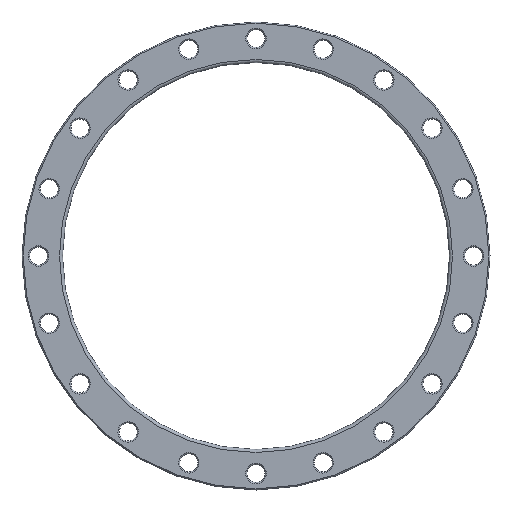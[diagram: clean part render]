
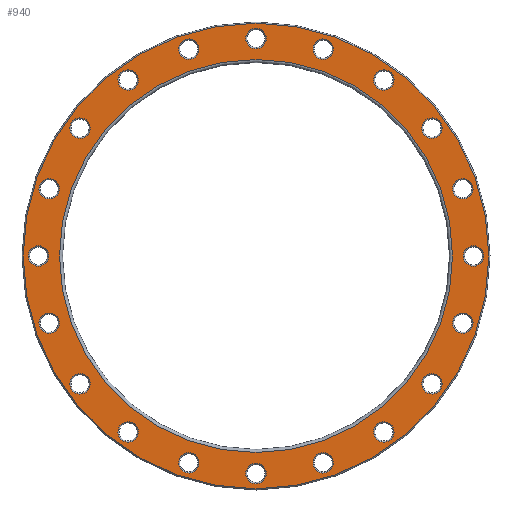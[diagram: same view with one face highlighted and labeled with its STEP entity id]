
A CAD part, front view. The second image highlights one B-rep face of the part: STEP entity #940.
In plain terms, the highlighted planar face has unit normal (0, -1, 0).
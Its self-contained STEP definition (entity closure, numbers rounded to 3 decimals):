
#23=PLANE('',#1104);
#206=ORIENTED_EDGE('',*,*,#325,.T.);
#207=ORIENTED_EDGE('',*,*,#326,.T.);
#208=ORIENTED_EDGE('',*,*,#244,.T.);
#209=ORIENTED_EDGE('',*,*,#248,.T.);
#210=ORIENTED_EDGE('',*,*,#252,.T.);
#211=ORIENTED_EDGE('',*,*,#256,.T.);
#212=ORIENTED_EDGE('',*,*,#260,.T.);
#213=ORIENTED_EDGE('',*,*,#264,.T.);
#214=ORIENTED_EDGE('',*,*,#268,.T.);
#215=ORIENTED_EDGE('',*,*,#272,.T.);
#216=ORIENTED_EDGE('',*,*,#276,.T.);
#217=ORIENTED_EDGE('',*,*,#280,.T.);
#218=ORIENTED_EDGE('',*,*,#284,.T.);
#219=ORIENTED_EDGE('',*,*,#288,.T.);
#220=ORIENTED_EDGE('',*,*,#292,.T.);
#221=ORIENTED_EDGE('',*,*,#296,.T.);
#222=ORIENTED_EDGE('',*,*,#300,.T.);
#223=ORIENTED_EDGE('',*,*,#304,.T.);
#224=ORIENTED_EDGE('',*,*,#308,.T.);
#225=ORIENTED_EDGE('',*,*,#312,.T.);
#226=ORIENTED_EDGE('',*,*,#316,.T.);
#227=ORIENTED_EDGE('',*,*,#327,.T.);
#244=EDGE_CURVE('',#332,#332,#420,.T.);
#248=EDGE_CURVE('',#336,#336,#424,.T.);
#252=EDGE_CURVE('',#340,#340,#428,.T.);
#256=EDGE_CURVE('',#344,#344,#432,.T.);
#260=EDGE_CURVE('',#348,#348,#436,.T.);
#264=EDGE_CURVE('',#352,#352,#440,.T.);
#268=EDGE_CURVE('',#356,#356,#444,.T.);
#272=EDGE_CURVE('',#360,#360,#448,.T.);
#276=EDGE_CURVE('',#364,#364,#452,.T.);
#280=EDGE_CURVE('',#368,#368,#456,.T.);
#284=EDGE_CURVE('',#372,#372,#460,.T.);
#288=EDGE_CURVE('',#376,#376,#464,.T.);
#292=EDGE_CURVE('',#380,#380,#468,.T.);
#296=EDGE_CURVE('',#384,#384,#472,.T.);
#300=EDGE_CURVE('',#388,#388,#476,.T.);
#304=EDGE_CURVE('',#392,#392,#480,.T.);
#308=EDGE_CURVE('',#396,#396,#484,.T.);
#312=EDGE_CURVE('',#400,#400,#488,.T.);
#316=EDGE_CURVE('',#404,#404,#492,.T.);
#325=EDGE_CURVE('',#413,#413,#501,.F.);
#326=EDGE_CURVE('',#414,#414,#502,.T.);
#327=EDGE_CURVE('',#415,#415,#503,.T.);
#332=VERTEX_POINT('',#1439);
#336=VERTEX_POINT('',#1450);
#340=VERTEX_POINT('',#1461);
#344=VERTEX_POINT('',#1472);
#348=VERTEX_POINT('',#1483);
#352=VERTEX_POINT('',#1494);
#356=VERTEX_POINT('',#1505);
#360=VERTEX_POINT('',#1516);
#364=VERTEX_POINT('',#1527);
#368=VERTEX_POINT('',#1538);
#372=VERTEX_POINT('',#1549);
#376=VERTEX_POINT('',#1560);
#380=VERTEX_POINT('',#1571);
#384=VERTEX_POINT('',#1582);
#388=VERTEX_POINT('',#1593);
#392=VERTEX_POINT('',#1604);
#396=VERTEX_POINT('',#1615);
#400=VERTEX_POINT('',#1626);
#404=VERTEX_POINT('',#1637);
#413=VERTEX_POINT('',#1660);
#414=VERTEX_POINT('',#1662);
#415=VERTEX_POINT('',#1664);
#420=CIRCLE('',#965,17.);
#424=CIRCLE('',#972,17.);
#428=CIRCLE('',#979,17.);
#432=CIRCLE('',#986,17.);
#436=CIRCLE('',#993,17.);
#440=CIRCLE('',#1000,17.);
#444=CIRCLE('',#1007,17.);
#448=CIRCLE('',#1014,17.);
#452=CIRCLE('',#1021,17.);
#456=CIRCLE('',#1028,17.);
#460=CIRCLE('',#1035,17.);
#464=CIRCLE('',#1042,17.);
#468=CIRCLE('',#1049,17.);
#472=CIRCLE('',#1056,17.);
#476=CIRCLE('',#1063,17.);
#480=CIRCLE('',#1070,17.);
#484=CIRCLE('',#1077,17.);
#488=CIRCLE('',#1084,17.);
#492=CIRCLE('',#1091,17.);
#501=CIRCLE('',#1105,388.);
#502=CIRCLE('',#1106,327.5);
#503=CIRCLE('',#1107,17.);
#646=EDGE_LOOP('',(#206));
#647=EDGE_LOOP('',(#207));
#648=EDGE_LOOP('',(#208));
#649=EDGE_LOOP('',(#209));
#650=EDGE_LOOP('',(#210));
#651=EDGE_LOOP('',(#211));
#652=EDGE_LOOP('',(#212));
#653=EDGE_LOOP('',(#213));
#654=EDGE_LOOP('',(#214));
#655=EDGE_LOOP('',(#215));
#656=EDGE_LOOP('',(#216));
#657=EDGE_LOOP('',(#217));
#658=EDGE_LOOP('',(#218));
#659=EDGE_LOOP('',(#219));
#660=EDGE_LOOP('',(#220));
#661=EDGE_LOOP('',(#221));
#662=EDGE_LOOP('',(#222));
#663=EDGE_LOOP('',(#223));
#664=EDGE_LOOP('',(#224));
#665=EDGE_LOOP('',(#225));
#666=EDGE_LOOP('',(#226));
#667=EDGE_LOOP('',(#227));
#822=FACE_BOUND('',#646,.T.);
#823=FACE_BOUND('',#647,.T.);
#824=FACE_BOUND('',#648,.T.);
#825=FACE_BOUND('',#649,.T.);
#826=FACE_BOUND('',#650,.T.);
#827=FACE_BOUND('',#651,.T.);
#828=FACE_BOUND('',#652,.T.);
#829=FACE_BOUND('',#653,.T.);
#830=FACE_BOUND('',#654,.T.);
#831=FACE_BOUND('',#655,.T.);
#832=FACE_BOUND('',#656,.T.);
#833=FACE_BOUND('',#657,.T.);
#834=FACE_BOUND('',#658,.T.);
#835=FACE_BOUND('',#659,.T.);
#836=FACE_BOUND('',#660,.T.);
#837=FACE_BOUND('',#661,.T.);
#838=FACE_BOUND('',#662,.T.);
#839=FACE_BOUND('',#663,.T.);
#840=FACE_BOUND('',#664,.T.);
#841=FACE_BOUND('',#665,.T.);
#842=FACE_BOUND('',#666,.T.);
#843=FACE_BOUND('',#667,.T.);
#940=ADVANCED_FACE('',(#822,#823,#824,#825,#826,#827,#828,#829,#830,#831,
#832,#833,#834,#835,#836,#837,#838,#839,#840,#841,#842,#843),#23,.F.);
#965=AXIS2_PLACEMENT_3D('',#1438,#1127,#1128);
#972=AXIS2_PLACEMENT_3D('',#1449,#1141,#1142);
#979=AXIS2_PLACEMENT_3D('',#1460,#1155,#1156);
#986=AXIS2_PLACEMENT_3D('',#1471,#1169,#1170);
#993=AXIS2_PLACEMENT_3D('',#1482,#1183,#1184);
#1000=AXIS2_PLACEMENT_3D('',#1493,#1197,#1198);
#1007=AXIS2_PLACEMENT_3D('',#1504,#1211,#1212);
#1014=AXIS2_PLACEMENT_3D('',#1515,#1225,#1226);
#1021=AXIS2_PLACEMENT_3D('',#1526,#1239,#1240);
#1028=AXIS2_PLACEMENT_3D('',#1537,#1253,#1254);
#1035=AXIS2_PLACEMENT_3D('',#1548,#1267,#1268);
#1042=AXIS2_PLACEMENT_3D('',#1559,#1281,#1282);
#1049=AXIS2_PLACEMENT_3D('',#1570,#1295,#1296);
#1056=AXIS2_PLACEMENT_3D('',#1581,#1309,#1310);
#1063=AXIS2_PLACEMENT_3D('',#1592,#1323,#1324);
#1070=AXIS2_PLACEMENT_3D('',#1603,#1337,#1338);
#1077=AXIS2_PLACEMENT_3D('',#1614,#1351,#1352);
#1084=AXIS2_PLACEMENT_3D('',#1625,#1365,#1366);
#1091=AXIS2_PLACEMENT_3D('',#1636,#1379,#1380);
#1104=AXIS2_PLACEMENT_3D('',#1658,#1405,#1406);
#1105=AXIS2_PLACEMENT_3D('',#1659,#1407,#1408);
#1106=AXIS2_PLACEMENT_3D('',#1661,#1409,#1410);
#1107=AXIS2_PLACEMENT_3D('',#1663,#1411,#1412);
#1127=DIRECTION('',(0.,1.,0.));
#1128=DIRECTION('',(0.951,0.,0.309));
#1141=DIRECTION('',(0.,1.,0.));
#1142=DIRECTION('',(0.809,0.,0.588));
#1155=DIRECTION('',(0.,1.,0.));
#1156=DIRECTION('',(0.588,0.,0.809));
#1169=DIRECTION('',(0.,1.,0.));
#1170=DIRECTION('',(0.309,0.,0.951));
#1183=DIRECTION('',(0.,1.,0.));
#1184=DIRECTION('',(0.,0.,1.));
#1197=DIRECTION('',(0.,1.,0.));
#1198=DIRECTION('',(-0.309,0.,0.951));
#1211=DIRECTION('',(0.,1.,0.));
#1212=DIRECTION('',(-0.588,0.,0.809));
#1225=DIRECTION('',(0.,1.,0.));
#1226=DIRECTION('',(-0.809,0.,0.588));
#1239=DIRECTION('',(0.,1.,0.));
#1240=DIRECTION('',(-0.951,0.,0.309));
#1253=DIRECTION('',(0.,1.,0.));
#1254=DIRECTION('',(-1.,0.,0.));
#1267=DIRECTION('',(0.,1.,0.));
#1268=DIRECTION('',(-0.951,0.,-0.309));
#1281=DIRECTION('',(0.,1.,0.));
#1282=DIRECTION('',(-0.809,0.,-0.588));
#1295=DIRECTION('',(0.,1.,0.));
#1296=DIRECTION('',(-0.588,0.,-0.809));
#1309=DIRECTION('',(0.,1.,0.));
#1310=DIRECTION('',(-0.309,0.,-0.951));
#1323=DIRECTION('',(0.,1.,0.));
#1324=DIRECTION('',(0.,0.,-1.));
#1337=DIRECTION('',(0.,1.,0.));
#1338=DIRECTION('',(0.309,0.,-0.951));
#1351=DIRECTION('',(0.,1.,0.));
#1352=DIRECTION('',(0.588,0.,-0.809));
#1365=DIRECTION('',(0.,1.,0.));
#1366=DIRECTION('',(0.809,0.,-0.588));
#1379=DIRECTION('',(0.,1.,0.));
#1380=DIRECTION('',(0.951,0.,-0.309));
#1405=DIRECTION('',(0.,1.,0.));
#1406=DIRECTION('',(0.,0.,1.));
#1407=DIRECTION('',(0.,1.,0.));
#1408=DIRECTION('',(0.,0.,1.));
#1409=DIRECTION('',(0.,1.,0.));
#1410=DIRECTION('',(0.,0.,1.));
#1411=DIRECTION('',(0.,1.,0.));
#1412=DIRECTION('',(1.,0.,0.));
#1438=CARTESIAN_POINT('',(-112.019,0.,344.758));
#1439=CARTESIAN_POINT('',(-95.851,0.,350.011));
#1449=CARTESIAN_POINT('',(-213.072,0.,293.269));
#1450=CARTESIAN_POINT('',(-199.319,0.,303.261));
#1460=CARTESIAN_POINT('',(-293.269,0.,213.072));
#1461=CARTESIAN_POINT('',(-283.276,0.,226.825));
#1471=CARTESIAN_POINT('',(-344.758,0.,112.019));
#1472=CARTESIAN_POINT('',(-339.505,0.,128.187));
#1482=CARTESIAN_POINT('',(-362.5,0.,0.));
#1483=CARTESIAN_POINT('',(-362.5,0.,17.));
#1493=CARTESIAN_POINT('',(-344.758,0.,-112.019));
#1494=CARTESIAN_POINT('',(-350.011,0.,-95.851));
#1504=CARTESIAN_POINT('',(-293.269,0.,-213.072));
#1505=CARTESIAN_POINT('',(-303.261,0.,-199.319));
#1515=CARTESIAN_POINT('',(-213.072,0.,-293.269));
#1516=CARTESIAN_POINT('',(-226.825,0.,-283.276));
#1526=CARTESIAN_POINT('',(-112.019,0.,-344.758));
#1527=CARTESIAN_POINT('',(-128.187,0.,-339.505));
#1537=CARTESIAN_POINT('',(0.,0.,-362.5));
#1538=CARTESIAN_POINT('',(-17.,0.,-362.5));
#1548=CARTESIAN_POINT('',(112.019,0.,-344.758));
#1549=CARTESIAN_POINT('',(95.851,0.,-350.011));
#1559=CARTESIAN_POINT('',(213.072,0.,-293.269));
#1560=CARTESIAN_POINT('',(199.319,0.,-303.261));
#1570=CARTESIAN_POINT('',(293.269,0.,-213.072));
#1571=CARTESIAN_POINT('',(283.276,0.,-226.825));
#1581=CARTESIAN_POINT('',(344.758,0.,-112.019));
#1582=CARTESIAN_POINT('',(339.505,0.,-128.187));
#1592=CARTESIAN_POINT('',(362.5,0.,0.));
#1593=CARTESIAN_POINT('',(362.5,0.,-17.));
#1603=CARTESIAN_POINT('',(344.758,0.,112.019));
#1604=CARTESIAN_POINT('',(350.011,0.,95.851));
#1614=CARTESIAN_POINT('',(293.269,0.,213.072));
#1615=CARTESIAN_POINT('',(303.261,0.,199.319));
#1625=CARTESIAN_POINT('',(213.072,0.,293.269));
#1626=CARTESIAN_POINT('',(226.825,0.,283.276));
#1636=CARTESIAN_POINT('',(112.019,0.,344.758));
#1637=CARTESIAN_POINT('',(128.187,0.,339.505));
#1658=CARTESIAN_POINT('',(0.,0.,0.));
#1659=CARTESIAN_POINT('',(0.,0.,0.));
#1660=CARTESIAN_POINT('',(0.,0.,388.));
#1661=CARTESIAN_POINT('',(0.,0.,0.));
#1662=CARTESIAN_POINT('',(0.,0.,327.5));
#1663=CARTESIAN_POINT('',(0.,0.,362.5));
#1664=CARTESIAN_POINT('',(17.,0.,362.5));
